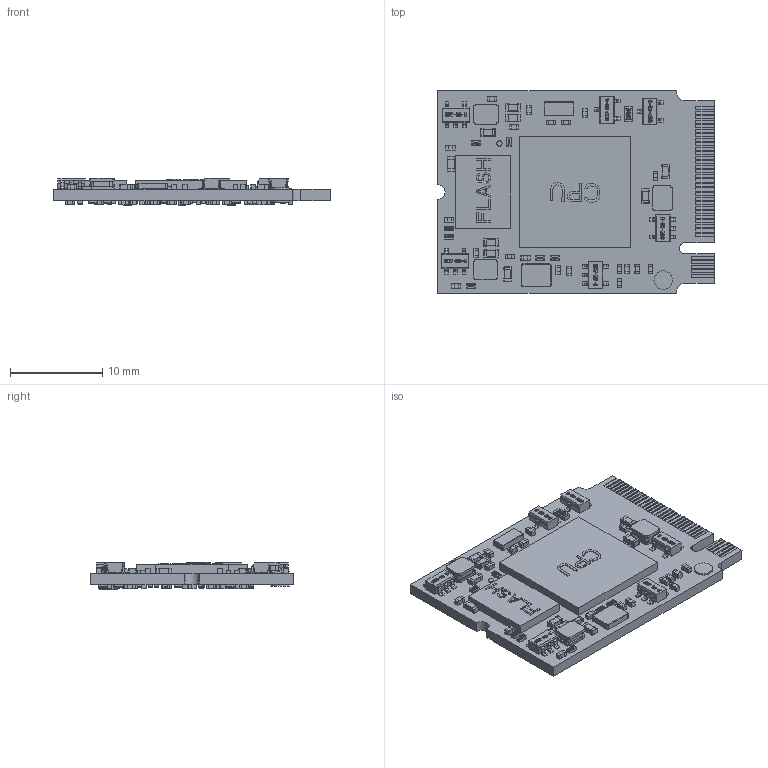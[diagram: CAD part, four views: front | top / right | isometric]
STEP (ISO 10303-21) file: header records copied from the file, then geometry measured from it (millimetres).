
FILE_DESCRIPTION(/* description */ ('PCB Design'),/* implementation_level */ '2;1');
FILE_NAME(/* name */ 'PCIE-RV1106GX-C_V10-3D',/* time_stamp */ '2026-02-08T16:58:30+08:00',/* author */ (''),/* organization */ (''),/* preprocessor_version */ 'ST-DEVELOPER v16',/* originating_system */ 'allegro_17.4S037',/* authorisation */ '');
FILE_SCHEMA (('AP242_MANAGED_MODEL_BASED_3D_ENGINEERING_MIM_LF { 1 0 10303 442 1 1 4 }'));
Products named in the file (43): PCIE-RV1106GX-C_V10-3D; COMPONENTS; R0402; C0603; C0402; SOT_23; SOP8-50-208C; M2_M_KEY; MARK; QFN128_12R3X12R3X0R90_T; SOT_23_5; TP_0R70; HSX2-0302; Y3025; 0402_CR; IND2520; 0402_L; 0402_CC; 0603_CC; R0603; User Library-cap_0603_lowprofile; User Library-CAPC_0402_CAPC_0402_Lead_1; User Library-CAPC_0402; User Library-CAPC_0402_CAPC_0402_Body_1; NONE-74088; NONE-74089; NONE-74090; NONE-74091; SOT-23-3_1_2_ASM; PRT0001; MARK_2_1_2_1; PRT0002; SOT-23-5; PRT0003; 2; 1; 3
Assembly tree (146 placements, depth 5):
  PCIE-RV1106GX-C_V10-3D
    COMPONENTS
      R0402  x4
        R0603
      C0603  x2
        User Library-cap_0603_lowprofile
      C0402  x3
        User Library-CAPC_0402
          User Library-CAPC_0402_CAPC_0402_Lead_1  x2
          User Library-CAPC_0402_CAPC_0402_Body_1
      SOT_23  x2
        SOT-23-3_1_2_ASM
          NONE-74088
          NONE-74089
          NONE-74090
          NONE-74091
      SOP8-50-208C
        PRT0001
      M2_M_KEY
        PRT0001
      MARK  x2
        MARK_2_1_2_1
      QFN128_12R3X12R3X0R90_T
        PRT0002
      SOT_23_5  x4
        SOT-23-5
      TP_0R70
        PRT0003
      HSX2-0302
        2
      Y3025
        1
      0402_CR  x29
        R0402
      IND2520  x3
        3
      0402_L  x3
        User Library-CAPC_0402
          User Library-CAPC_0402_CAPC_0402_Lead_1  x2
          User Library-CAPC_0402_CAPC_0402_Body_1
      0402_CC  x50
        User Library-CAPC_0402
          User Library-CAPC_0402_CAPC_0402_Lead_1  x2
          User Library-CAPC_0402_CAPC_0402_Body_1
      0603_CC  x10
        User Library-cap_0603_lowprofile
Bounding box: 30 x 22 x 2.95 mm (x, y, z)
Volume: 1063.2 mm3; surface area: 2608 mm2
Topology: 293 solids, 293 shells, 5792 faces, 14403 edges, 9426 vertices
Faces by surface type: plane 3773, bspline 1378, cylinder 381, extrusion 152, sphere 96, cone 12
Entity records: 54392 total; most frequent: CARTESIAN_POINT 23746, ORIENTED_EDGE 5796, DIRECTION 4769, EDGE_CURVE 2898, VECTOR 2294, LINE 2218, VERTEX_POINT 1908, AXIS2_PLACEMENT_3D 1373
